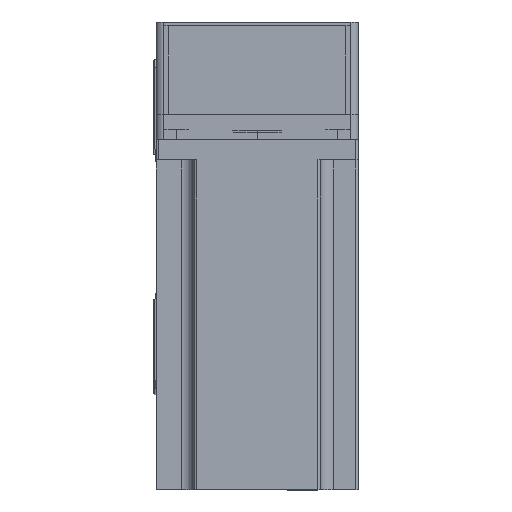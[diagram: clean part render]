
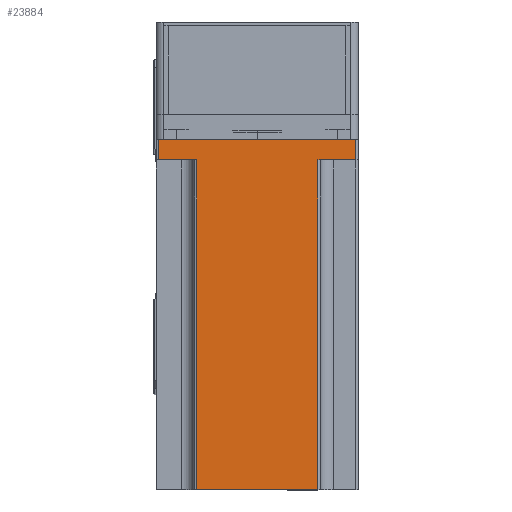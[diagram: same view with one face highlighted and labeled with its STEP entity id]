
A CAD part, top view. The second image highlights one B-rep face of the part: STEP entity #23884.
In plain terms, the highlighted planar face has unit normal (0, 0, 1) as drawn and (0, 1, 0) by its records, which use the part's own axes.
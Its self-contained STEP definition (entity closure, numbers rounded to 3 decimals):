
#102 = VECTOR ( 'NONE', #15276, 1000. ) ;
#994 = CARTESIAN_POINT ( 'NONE',  ( -39., 40., 8. ) ) ;
#1503 = FACE_OUTER_BOUND ( 'NONE', #52164, .T. ) ;
#1644 = DIRECTION ( 'NONE',  ( 0., 0., -1. ) ) ;
#2353 = DIRECTION ( 'NONE',  ( 0., -1., 0. ) ) ;
#4163 = ORIENTED_EDGE ( 'NONE', *, *, #11667, .T. ) ;
#4782 = VERTEX_POINT ( 'NONE', #6293 ) ;
#5126 = CARTESIAN_POINT ( 'NONE',  ( 40., 40., 138.3 ) ) ;
#5670 = CARTESIAN_POINT ( 'NONE',  ( -25., 40., 8. ) ) ;
#6104 = VERTEX_POINT ( 'NONE', #45913 ) ;
#6293 = CARTESIAN_POINT ( 'NONE',  ( -24., 40., 8. ) ) ;
#6338 = PLANE ( 'NONE',  #16084 ) ;
#8683 = VERTEX_POINT ( 'NONE', #22677 ) ;
#9005 = LINE ( 'NONE', #14521, #41100 ) ;
#10502 = DIRECTION ( 'NONE',  ( -1., 0., 0. ) ) ;
#11086 = CARTESIAN_POINT ( 'NONE',  ( -39., 40., 138.3 ) ) ;
#11178 = CARTESIAN_POINT ( 'NONE',  ( 24., 40., 8. ) ) ;
#11667 = EDGE_CURVE ( 'NONE', #18203, #4782, #51104, .T. ) ;
#12441 = EDGE_CURVE ( 'NONE', #4782, #6104, #52269, .T. ) ;
#14503 = EDGE_CURVE ( 'NONE', #48485, #8683, #54323, .T. ) ;
#14521 = CARTESIAN_POINT ( 'NONE',  ( 25., 40., 8. ) ) ;
#15148 = EDGE_CURVE ( 'NONE', #33108, #48485, #20753, .T. ) ;
#15276 = DIRECTION ( 'NONE',  ( 0., 0., 1. ) ) ;
#15663 = CARTESIAN_POINT ( 'NONE',  ( 40., 40., 0. ) ) ;
#16084 = AXIS2_PLACEMENT_3D ( 'NONE', #27410, #2353, #31612 ) ;
#18203 = VERTEX_POINT ( 'NONE', #994 ) ;
#18420 = CARTESIAN_POINT ( 'NONE',  ( -24., 40., 138.3 ) ) ;
#18828 = EDGE_CURVE ( 'NONE', #34687, #37435, #46710, .T. ) ;
#18967 = VECTOR ( 'NONE', #34994, 1000. ) ;
#19455 = EDGE_CURVE ( 'NONE', #8683, #18203, #23648, .T. ) ;
#20753 = LINE ( 'NONE', #25279, #41728 ) ;
#21065 = DIRECTION ( 'NONE',  ( 0., 0., -1. ) ) ;
#21260 = ORIENTED_EDGE ( 'NONE', *, *, #12441, .T. ) ;
#22677 = CARTESIAN_POINT ( 'NONE',  ( -39., 40., 0. ) ) ;
#23648 = LINE ( 'NONE', #11086, #102 ) ;
#23884 = ADVANCED_FACE ( 'NONE', ( #1503 ), #6338, .F. ) ;
#24339 = ORIENTED_EDGE ( 'NONE', *, *, #14503, .T. ) ;
#25279 = CARTESIAN_POINT ( 'NONE',  ( 39., 40., 138.3 ) ) ;
#25556 = EDGE_CURVE ( 'NONE', #33108, #37435, #9005, .T. ) ;
#26681 = CARTESIAN_POINT ( 'NONE',  ( 24., 40., 138.3 ) ) ;
#26770 = ORIENTED_EDGE ( 'NONE', *, *, #15148, .T. ) ;
#27410 = CARTESIAN_POINT ( 'NONE',  ( 40., 40., 138.3 ) ) ;
#29111 = LINE ( 'NONE', #5126, #40240 ) ;
#29967 = VECTOR ( 'NONE', #31268, 1000. ) ;
#31268 = DIRECTION ( 'NONE',  ( 0., 0., 1. ) ) ;
#31612 = DIRECTION ( 'NONE',  ( 1., 0., 0. ) ) ;
#32234 = ORIENTED_EDGE ( 'NONE', *, *, #47444, .F. ) ;
#33108 = VERTEX_POINT ( 'NONE', #48795 ) ;
#33352 = VECTOR ( 'NONE', #49186, 1000. ) ;
#34429 = DIRECTION ( 'NONE',  ( -1., 0., 0. ) ) ;
#34687 = VERTEX_POINT ( 'NONE', #39288 ) ;
#34994 = DIRECTION ( 'NONE',  ( 1., 0., 0. ) ) ;
#36883 = CARTESIAN_POINT ( 'NONE',  ( 39., 40., 0. ) ) ;
#37435 = VERTEX_POINT ( 'NONE', #11178 ) ;
#39288 = CARTESIAN_POINT ( 'NONE',  ( 24., 40., 138.3 ) ) ;
#40240 = VECTOR ( 'NONE', #34429, 1000. ) ;
#40381 = ORIENTED_EDGE ( 'NONE', *, *, #19455, .T. ) ;
#41100 = VECTOR ( 'NONE', #10502, 1000. ) ;
#41728 = VECTOR ( 'NONE', #21065, 1000. ) ;
#45409 = VECTOR ( 'NONE', #1644, 1000. ) ;
#45913 = CARTESIAN_POINT ( 'NONE',  ( -24., 40., 138.3 ) ) ;
#46710 = LINE ( 'NONE', #26681, #45409 ) ;
#47444 = EDGE_CURVE ( 'NONE', #34687, #6104, #29111, .T. ) ;
#48485 = VERTEX_POINT ( 'NONE', #36883 ) ;
#48795 = CARTESIAN_POINT ( 'NONE',  ( 39., 40., 8. ) ) ;
#49186 = DIRECTION ( 'NONE',  ( -1., 0., 0. ) ) ;
#49300 = ORIENTED_EDGE ( 'NONE', *, *, #25556, .F. ) ;
#50745 = ORIENTED_EDGE ( 'NONE', *, *, #18828, .T. ) ;
#51104 = LINE ( 'NONE', #5670, #18967 ) ;
#52164 = EDGE_LOOP ( 'NONE', ( #4163, #21260, #32234, #50745, #49300, #26770, #24339, #40381 ) ) ;
#52269 = LINE ( 'NONE', #18420, #29967 ) ;
#54323 = LINE ( 'NONE', #15663, #33352 ) ;
